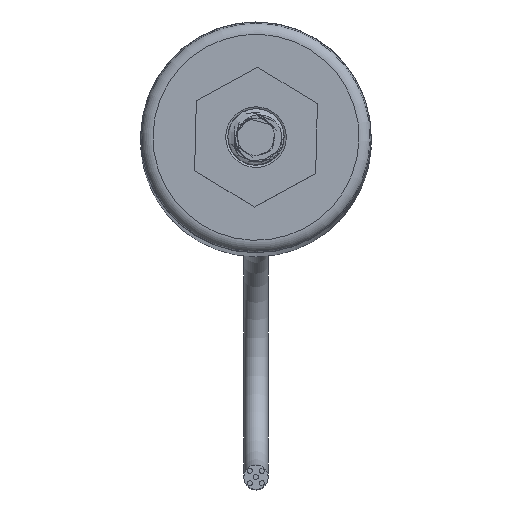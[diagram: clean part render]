
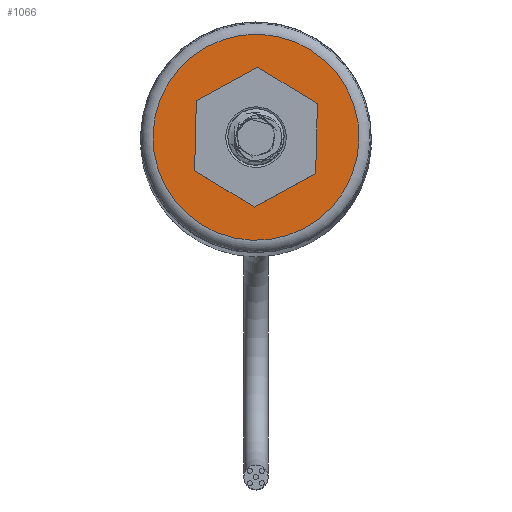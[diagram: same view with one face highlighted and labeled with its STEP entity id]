
A CAD part, top view. The second image highlights one B-rep face of the part: STEP entity #1066.
In plain terms, the highlighted planar face has unit normal (0, 0, 1).
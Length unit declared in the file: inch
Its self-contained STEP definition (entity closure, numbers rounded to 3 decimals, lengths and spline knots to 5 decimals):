
#68=FACE_BOUND('',#205,.T.);
#85=PLANE('',#1318);
#130=FACE_OUTER_BOUND('',#204,.T.);
#204=EDGE_LOOP('',(#750));
#205=EDGE_LOOP('',(#751));
#384=CIRCLE('',#1313,0.1675);
#388=CIRCLE('',#1319,0.0625);
#471=VERTEX_POINT('',#1885);
#474=VERTEX_POINT('',#1895);
#573=EDGE_CURVE('',#471,#471,#384,.T.);
#578=EDGE_CURVE('',#474,#474,#388,.T.);
#750=ORIENTED_EDGE('',*,*,#573,.F.);
#751=ORIENTED_EDGE('',*,*,#578,.T.);
#1066=ADVANCED_FACE('',(#130,#68),#85,.T.);
#1313=AXIS2_PLACEMENT_3D('',#1886,#1508,#1509);
#1318=AXIS2_PLACEMENT_3D('',#1894,#1519,#1520);
#1319=AXIS2_PLACEMENT_3D('',#1896,#1521,#1522);
#1508=DIRECTION('center_axis',(0.,0.,
-1.));
#1509=DIRECTION('ref_axis',(-0.788,-0.615,0.));
#1519=DIRECTION('center_axis',(0.,0.,
1.));
#1520=DIRECTION('ref_axis',(0.788,0.615,0.));
#1521=DIRECTION('center_axis',(0.,0.,
-1.));
#1522=DIRECTION('ref_axis',(0.788,0.615,0.));
#1885=CARTESIAN_POINT('',(-0.13203,-0.10308,0.029));
#1886=CARTESIAN_POINT('Origin',(0.,0.,
0.029));
#1894=CARTESIAN_POINT('Origin',(0.,0.,
0.029));
#1895=CARTESIAN_POINT('',(-0.04926,-0.03846,0.029));
#1896=CARTESIAN_POINT('Origin',(0.,0.,
0.029));
